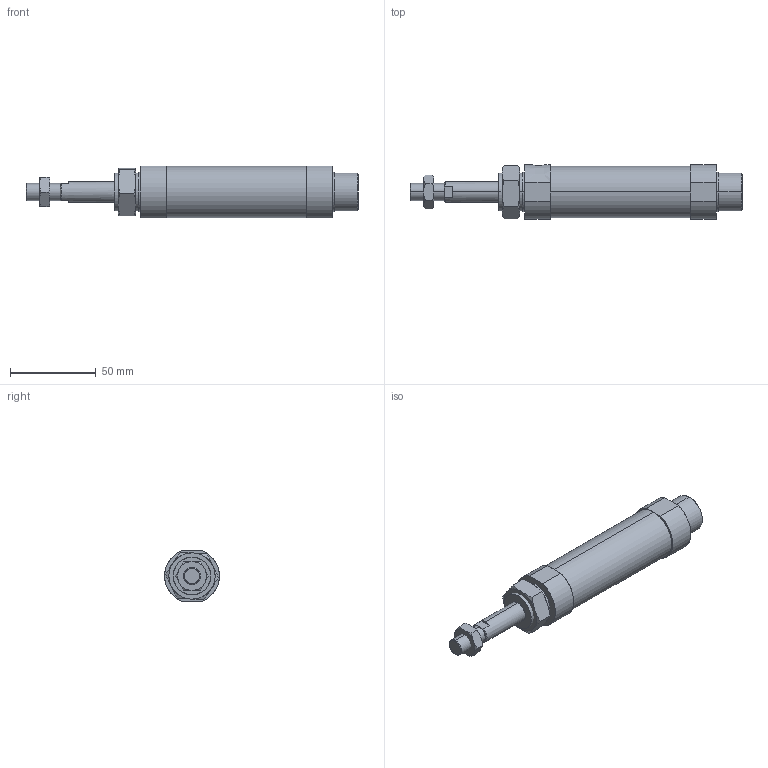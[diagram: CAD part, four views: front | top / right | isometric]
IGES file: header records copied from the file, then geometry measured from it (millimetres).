
Start section: SolidWorks IGES file using analytic representation for surfaces
Global section: file name: C:\Users\Toshiba\Desktop\J#0-25-25-N.IGS; native system: SolidWorks 2014; preprocessor: SolidWorks 2014; author: Toshiba; date: 160308.143443; units: millimetre
Bounding box: 194 x 32 x 30 mm (x, y, z)
Surface area: 19985.7 mm2 (no closed solid volume)
Topology: 0 solids, 0 shells, 93 faces, 1662 edges, 1660 vertices
Faces by surface type: bspline 61, revolution 32
